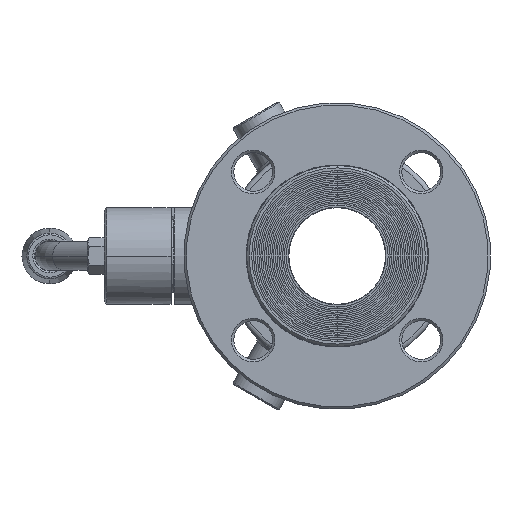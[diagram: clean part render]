
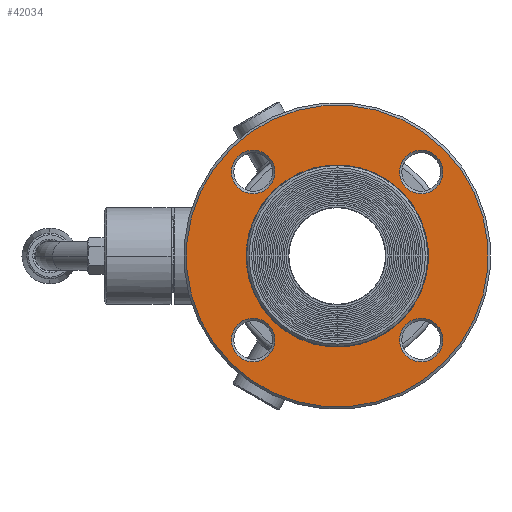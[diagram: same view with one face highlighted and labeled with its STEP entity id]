
A CAD part, left-side view. The second image highlights one B-rep face of the part: STEP entity #42034.
In plain terms, the highlighted planar face has unit normal (-1, 0, 0).
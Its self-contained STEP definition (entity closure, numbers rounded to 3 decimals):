
#1947=CARTESIAN_POINT('',(-68.,0.,0.));
#1948=DIRECTION('',(1.,0.,0.));
#1949=DIRECTION('',(0.,0.707,-0.707));
#1950=AXIS2_PLACEMENT_3D('',#1947,#1948,#1949);
#1993=CARTESIAN_POINT('',(-68.,0.,0.));
#1994=DIRECTION('',(-1.,0.,0.));
#1995=DIRECTION('',(0.,0.707,-0.707));
#1996=AXIS2_PLACEMENT_3D('',#1993,#1994,#1995);
#2008=CARTESIAN_POINT('',(-68.,0.,0.));
#2009=DIRECTION('',(-1.,0.,0.));
#2010=DIRECTION('',(0.,0.707,-0.707));
#2011=AXIS2_PLACEMENT_3D('',#2008,#2009,#2010);
#2038=CARTESIAN_POINT('',(-68.,0.,0.));
#2039=DIRECTION('',(1.,0.,0.));
#2040=DIRECTION('',(0.,0.707,-0.707));
#2041=AXIS2_PLACEMENT_3D('',#2038,#2039,#2040);
#36007=CARTESIAN_POINT('',(-68.,34.79,-34.79));
#36008=DIRECTION('',(1.,0.,0.));
#36009=DIRECTION('',(0.,0.707,-0.707));
#36010=AXIS2_PLACEMENT_3D('',#36007,#36008,#36009);
#36037=CARTESIAN_POINT('',(-68.,34.79,-34.79));
#36038=DIRECTION('',(1.,0.,0.));
#36039=DIRECTION('',(0.,-0.707,0.707));
#36040=AXIS2_PLACEMENT_3D('',#36037,#36038,#36039);
#36113=CARTESIAN_POINT('',(-68.,34.79,34.79));
#36114=DIRECTION('',(1.,0.,0.));
#36115=DIRECTION('',(0.,0.707,-0.707));
#36116=AXIS2_PLACEMENT_3D('',#36113,#36114,#36115);
#36129=CARTESIAN_POINT('',(-68.,34.79,34.79));
#36130=DIRECTION('',(1.,0.,0.));
#36131=DIRECTION('',(0.,-0.707,0.707));
#36132=AXIS2_PLACEMENT_3D('',#36129,#36130,#36131);
#36219=CARTESIAN_POINT('',(-68.,-34.79,34.79));
#36220=DIRECTION('',(1.,0.,0.));
#36221=DIRECTION('',(0.,0.707,-0.707));
#36222=AXIS2_PLACEMENT_3D('',#36219,#36220,#36221);
#36249=CARTESIAN_POINT('',(-68.,-34.79,34.79));
#36250=DIRECTION('',(1.,0.,0.));
#36251=DIRECTION('',(0.,-0.707,0.707));
#36252=AXIS2_PLACEMENT_3D('',#36249,#36250,#36251);
#36325=CARTESIAN_POINT('',(-68.,-34.79,-34.79));
#36326=DIRECTION('',(1.,0.,0.));
#36327=DIRECTION('',(0.,0.707,-0.707));
#36328=AXIS2_PLACEMENT_3D('',#36325,#36326,#36327);
#36355=CARTESIAN_POINT('',(-68.,-34.79,-34.79));
#36356=DIRECTION('',(1.,0.,0.));
#36357=DIRECTION('',(0.,-0.707,0.707));
#36358=AXIS2_PLACEMENT_3D('',#36355,#36356,#36357);
#38807=CARTESIAN_POINT('',(-68.,26.693,-26.693));
#38808=CARTESIAN_POINT('',(-68.,-26.693,26.693));
#38809=VERTEX_POINT('',#38807);
#38810=VERTEX_POINT('',#38808);
#38811=CARTESIAN_POINT('',(-68.,44.194,-44.194));
#38812=CARTESIAN_POINT('',(-68.,-44.194,44.194));
#38813=VERTEX_POINT('',#38811);
#38814=VERTEX_POINT('',#38812);
#38867=CARTESIAN_POINT('',(-68.,-41.154,41.154));
#38868=CARTESIAN_POINT('',(-68.,-28.426,28.426));
#38869=VERTEX_POINT('',#38867);
#38870=VERTEX_POINT('',#38868);
#38875=CARTESIAN_POINT('',(-68.,-41.154,-28.426));
#38876=CARTESIAN_POINT('',(-68.,-28.426,-41.154));
#38877=VERTEX_POINT('',#38875);
#38878=VERTEX_POINT('',#38876);
#38883=CARTESIAN_POINT('',(-68.,28.426,-28.426));
#38884=CARTESIAN_POINT('',(-68.,41.154,-41.154));
#38885=VERTEX_POINT('',#38883);
#38886=VERTEX_POINT('',#38884);
#38891=CARTESIAN_POINT('',(-68.,41.154,28.426));
#38892=CARTESIAN_POINT('',(-68.,28.426,41.154));
#38893=VERTEX_POINT('',#38891);
#38894=VERTEX_POINT('',#38892);
#41995=CARTESIAN_POINT('',(-68.,0.,0.));
#41996=DIRECTION('',(-1.,0.,0.));
#41997=DIRECTION('',(0.,0.707,-0.707));
#41998=AXIS2_PLACEMENT_3D('',#41995,#41996,#41997);
#41999=PLANE('',#41998);
#42001=ORIENTED_EDGE('',*,*,#42000,.F.);
#42003=ORIENTED_EDGE('',*,*,#42002,.T.);
#42004=EDGE_LOOP('',(#42001,#42003));
#42005=FACE_OUTER_BOUND('',#42004,.F.);
#42006=ORIENTED_EDGE('',*,*,#41946,.F.);
#42007=ORIENTED_EDGE('',*,*,#41989,.T.);
#42008=EDGE_LOOP('',(#42006,#42007));
#42009=FACE_BOUND('',#42008,.F.);
#42011=ORIENTED_EDGE('',*,*,#42010,.F.);
#42013=ORIENTED_EDGE('',*,*,#42012,.F.);
#42014=EDGE_LOOP('',(#42011,#42013));
#42015=FACE_BOUND('',#42014,.F.);
#42017=ORIENTED_EDGE('',*,*,#42016,.F.);
#42019=ORIENTED_EDGE('',*,*,#42018,.F.);
#42020=EDGE_LOOP('',(#42017,#42019));
#42021=FACE_BOUND('',#42020,.F.);
#42023=ORIENTED_EDGE('',*,*,#42022,.F.);
#42025=ORIENTED_EDGE('',*,*,#42024,.F.);
#42026=EDGE_LOOP('',(#42023,#42025));
#42027=FACE_BOUND('',#42026,.F.);
#42029=ORIENTED_EDGE('',*,*,#42028,.F.);
#42031=ORIENTED_EDGE('',*,*,#42030,.F.);
#42032=EDGE_LOOP('',(#42029,#42031));
#42033=FACE_BOUND('',#42032,.F.);
#42034=ADVANCED_FACE('',(#42005,#42009,#42015,#42021,#42027,#42033),#41999,.T.);
#1951=CIRCLE('',#1950,37.75);
#1997=CIRCLE('',#1996,37.75);
#2012=CIRCLE('',#2011,62.5);
#2042=CIRCLE('',#2041,62.5);
#36011=CIRCLE('',#36010,9.);
#36041=CIRCLE('',#36040,9.);
#36117=CIRCLE('',#36116,9.);
#36133=CIRCLE('',#36132,9.);
#36223=CIRCLE('',#36222,9.);
#36253=CIRCLE('',#36252,9.);
#36329=CIRCLE('',#36328,9.);
#36359=CIRCLE('',#36358,9.);
#41946=EDGE_CURVE('',#38809,#38810,#1951,.T.);
#41989=EDGE_CURVE('',#38809,#38810,#1997,.T.);
#42000=EDGE_CURVE('',#38813,#38814,#2012,.T.);
#42002=EDGE_CURVE('',#38813,#38814,#2042,.T.);
#42010=EDGE_CURVE('',#38886,#38885,#36011,.T.);
#42012=EDGE_CURVE('',#38885,#38886,#36041,.T.);
#42016=EDGE_CURVE('',#38893,#38894,#36117,.T.);
#42018=EDGE_CURVE('',#38894,#38893,#36133,.T.);
#42022=EDGE_CURVE('',#38870,#38869,#36223,.T.);
#42024=EDGE_CURVE('',#38869,#38870,#36253,.T.);
#42028=EDGE_CURVE('',#38878,#38877,#36329,.T.);
#42030=EDGE_CURVE('',#38877,#38878,#36359,.T.);
